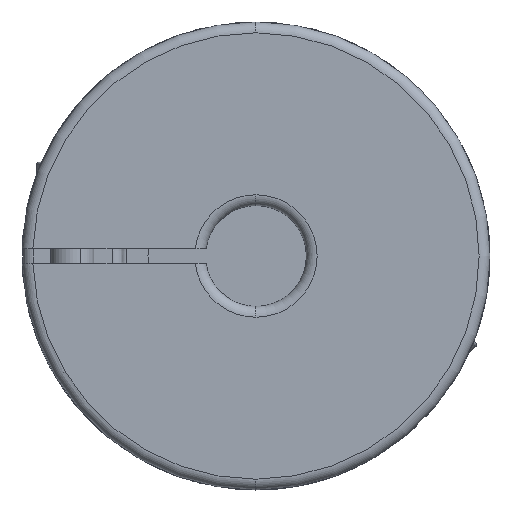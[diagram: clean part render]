
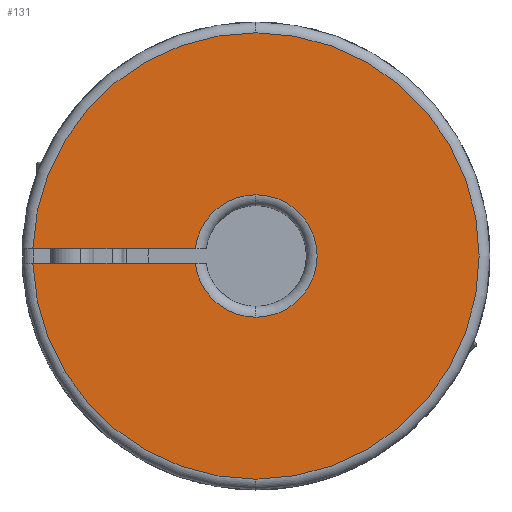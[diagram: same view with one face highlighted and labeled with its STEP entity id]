
A CAD part, left-side view. The second image highlights one B-rep face of the part: STEP entity #131.
In plain terms, the highlighted planar face has unit normal (-1, 0, 0).
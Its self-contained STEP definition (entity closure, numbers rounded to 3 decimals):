
#73 = EDGE_CURVE ( 'NONE', #9559, #1337, #417, .T. ) ;
#82 = DIRECTION ( 'NONE',  ( -1., 0., 0. ) ) ;
#86 = ORIENTED_EDGE ( 'NONE', *, *, #11092, .T. ) ;
#131 = ADVANCED_FACE ( 'NONE', ( #11560 ), #3568, .F. ) ;
#396 = DIRECTION ( 'NONE',  ( -1., 0., 0. ) ) ;
#417 = CIRCLE ( 'NONE', #4498, 31. ) ;
#432 = LINE ( 'NONE', #492, #1176 ) ;
#492 = CARTESIAN_POINT ( 'NONE',  ( 0., 35., -1. ) ) ;
#597 = VERTEX_POINT ( 'NONE', #2999 ) ;
#683 = VECTOR ( 'NONE', #9666, 1000. ) ;
#699 = CIRCLE ( 'NONE', #9836, 8.5 ) ;
#732 = ORIENTED_EDGE ( 'NONE', *, *, #4084, .F. ) ;
#767 = DIRECTION ( 'NONE',  ( 0., 0., 1. ) ) ;
#810 = DIRECTION ( 'NONE',  ( 0., 0., 1. ) ) ;
#829 = CIRCLE ( 'NONE', #3257, 8.5 ) ;
#889 = DIRECTION ( 'NONE',  ( -1., 0., 0. ) ) ;
#1039 = DIRECTION ( 'NONE',  ( 0., 0., 1. ) ) ;
#1093 = DIRECTION ( 'NONE',  ( 1., 0., 0. ) ) ;
#1176 = VECTOR ( 'NONE', #3985, 1000. ) ;
#1337 = VERTEX_POINT ( 'NONE', #10352 ) ;
#1751 = AXIS2_PLACEMENT_3D ( 'NONE', #9172, #396, #7424 ) ;
#1769 = DIRECTION ( 'NONE',  ( 0., 0., -1. ) ) ;
#1894 = CARTESIAN_POINT ( 'NONE',  ( 0., 30.984, 1. ) ) ;
#1979 = CIRCLE ( 'NONE', #1751, 31. ) ;
#2565 = DIRECTION ( 'NONE',  ( -1., 0., 0. ) ) ;
#2650 = VERTEX_POINT ( 'NONE', #3328 ) ;
#2693 = CARTESIAN_POINT ( 'NONE',  ( 0., 31., 0. ) ) ;
#2806 = CARTESIAN_POINT ( 'NONE',  ( 0., 8.441, -1. ) ) ;
#2921 = ORIENTED_EDGE ( 'NONE', *, *, #73, .T. ) ;
#2932 = ORIENTED_EDGE ( 'NONE', *, *, #11051, .F. ) ;
#2999 = CARTESIAN_POINT ( 'NONE',  ( 0., 30.984, -1. ) ) ;
#3257 = AXIS2_PLACEMENT_3D ( 'NONE', #10732, #82, #9973 ) ;
#3328 = CARTESIAN_POINT ( 'NONE',  ( 0., 0., 8.5 ) ) ;
#3498 = CARTESIAN_POINT ( 'NONE',  ( 0., 0., -8.5 ) ) ;
#3568 = PLANE ( 'NONE',  #4899 ) ;
#3722 = EDGE_LOOP ( 'NONE', ( #86, #2921, #11184, #10640, #5600, #2932, #732, #4850 ) ) ;
#3985 = DIRECTION ( 'NONE',  ( 0., 1., 0. ) ) ;
#4084 = EDGE_CURVE ( 'NONE', #4261, #10623, #699, .T. ) ;
#4261 = VERTEX_POINT ( 'NONE', #2806 ) ;
#4498 = AXIS2_PLACEMENT_3D ( 'NONE', #10547, #6045, #7899 ) ;
#4757 = AXIS2_PLACEMENT_3D ( 'NONE', #9910, #6290, #1039 ) ;
#4819 = EDGE_CURVE ( 'NONE', #2650, #4870, #7196, .T. ) ;
#4850 = ORIENTED_EDGE ( 'NONE', *, *, #7729, .T. ) ;
#4870 = VERTEX_POINT ( 'NONE', #7254 ) ;
#4899 = AXIS2_PLACEMENT_3D ( 'NONE', #2693, #1093, #1769 ) ;
#5397 = LINE ( 'NONE', #9609, #683 ) ;
#5600 = ORIENTED_EDGE ( 'NONE', *, *, #4819, .F. ) ;
#5608 = CARTESIAN_POINT ( 'NONE',  ( 0., 0., -31. ) ) ;
#6045 = DIRECTION ( 'NONE',  ( -1., 0., 0. ) ) ;
#6290 = DIRECTION ( 'NONE',  ( -1., 0., 0. ) ) ;
#6537 = EDGE_CURVE ( 'NONE', #9867, #4870, #5397, .T. ) ;
#6637 = CIRCLE ( 'NONE', #4757, 31. ) ;
#7012 = AXIS2_PLACEMENT_3D ( 'NONE', #7018, #2565, #810 ) ;
#7018 = CARTESIAN_POINT ( 'NONE',  ( 0., 0., 0. ) ) ;
#7196 = CIRCLE ( 'NONE', #7012, 8.5 ) ;
#7254 = CARTESIAN_POINT ( 'NONE',  ( 0., 8.441, 1. ) ) ;
#7424 = DIRECTION ( 'NONE',  ( 0., 0., 1. ) ) ;
#7729 = EDGE_CURVE ( 'NONE', #4261, #597, #432, .T. ) ;
#7899 = DIRECTION ( 'NONE',  ( 0., 0., 1. ) ) ;
#8779 = CARTESIAN_POINT ( 'NONE',  ( 0., 0., 0. ) ) ;
#9172 = CARTESIAN_POINT ( 'NONE',  ( 0., 0., 0. ) ) ;
#9555 = EDGE_CURVE ( 'NONE', #1337, #9867, #1979, .T. ) ;
#9559 = VERTEX_POINT ( 'NONE', #5608 ) ;
#9609 = CARTESIAN_POINT ( 'NONE',  ( 0., 35., 1. ) ) ;
#9666 = DIRECTION ( 'NONE',  ( 0., -1., 0. ) ) ;
#9836 = AXIS2_PLACEMENT_3D ( 'NONE', #8779, #889, #767 ) ;
#9867 = VERTEX_POINT ( 'NONE', #1894 ) ;
#9910 = CARTESIAN_POINT ( 'NONE',  ( 0., 0., 0. ) ) ;
#9973 = DIRECTION ( 'NONE',  ( 0., 0., 1. ) ) ;
#10352 = CARTESIAN_POINT ( 'NONE',  ( 0., 0., 31. ) ) ;
#10547 = CARTESIAN_POINT ( 'NONE',  ( 0., 0., 0. ) ) ;
#10623 = VERTEX_POINT ( 'NONE', #3498 ) ;
#10640 = ORIENTED_EDGE ( 'NONE', *, *, #6537, .T. ) ;
#10732 = CARTESIAN_POINT ( 'NONE',  ( 0., 0., 0. ) ) ;
#11051 = EDGE_CURVE ( 'NONE', #10623, #2650, #829, .T. ) ;
#11092 = EDGE_CURVE ( 'NONE', #597, #9559, #6637, .T. ) ;
#11184 = ORIENTED_EDGE ( 'NONE', *, *, #9555, .T. ) ;
#11560 = FACE_OUTER_BOUND ( 'NONE', #3722, .T. ) ;
